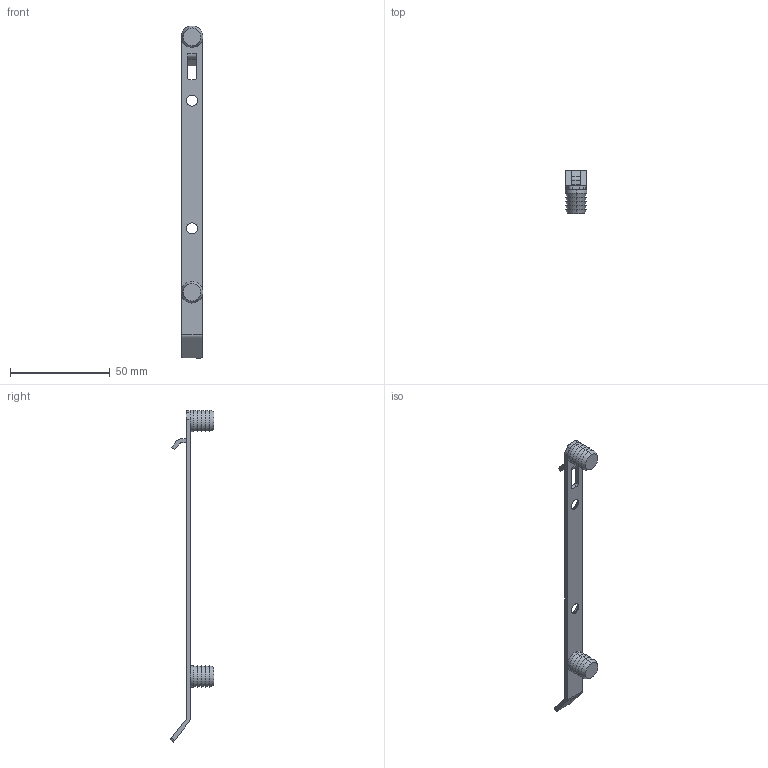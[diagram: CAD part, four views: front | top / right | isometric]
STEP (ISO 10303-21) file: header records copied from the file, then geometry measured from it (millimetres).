
FILE_DESCRIPTION (( 'STEP AP214' ), '1' );
FILE_NAME ('_Einhaengehaken_H186_Einpressvariante.step', '2010-07-15T09:43:31', ( 'grass' ), ( '' ), 'SwSTEP 2.0', 'SolidWorks 2009', '' );
FILE_SCHEMA (( 'AUTOMOTIVE_DESIGN' ));
Length unit declared in the file: millimetre
Products named in the file (1): _Einhaengehaken_H186_Einpressvariante
Bounding box: 10.8 x 21.8 x 166.33 mm (x, y, z)
Volume: 5085.4 mm3; surface area: 5316.5 mm2
Topology: 1 solids, 1 shells, 104 faces, 244 edges, 152 vertices
Faces by surface type: plane 42, cylinder 34, cone 28
Entity records: 3036 total; most frequent: DIRECTION 572, CARTESIAN_POINT 501, ORIENTED_EDGE 488, EDGE_CURVE 244, AXIS2_PLACEMENT_3D 223, VERTEX_POINT 152, LINE 126, VECTOR 126
